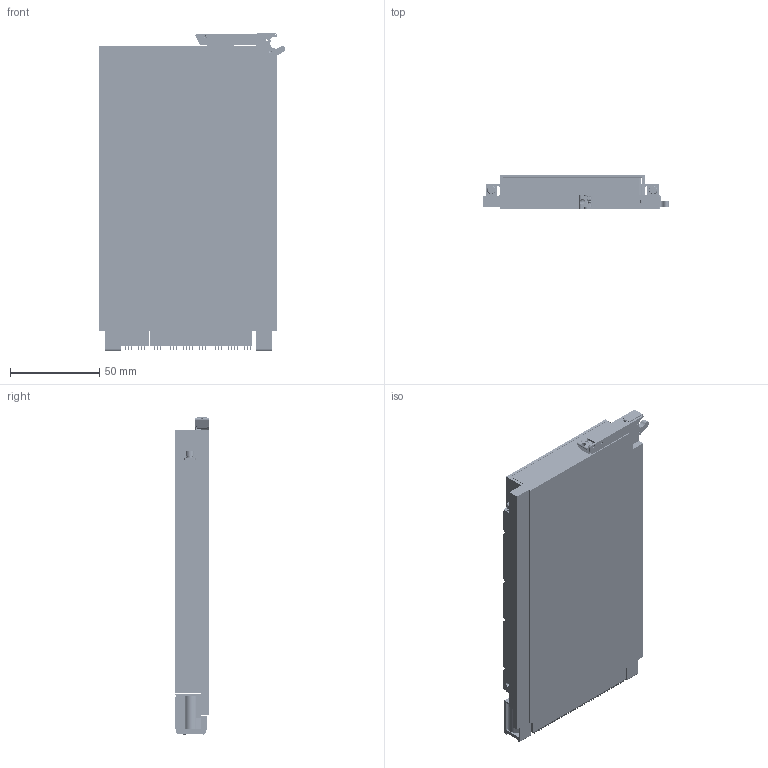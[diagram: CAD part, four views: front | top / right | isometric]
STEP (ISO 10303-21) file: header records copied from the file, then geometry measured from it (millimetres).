
FILE_DESCRIPTION (( 'STEP AP203' ), '1' );
FILE_NAME ('3U-VPX48.2-PS-260-311TC 800.step', '2018-06-15T20:50:20', ( '' ), ( '' ), 'SwSTEP 2.0', 'SolidWorks 2014', '' );
FILE_SCHEMA (( 'CONFIG_CONTROL_DESIGN' ));
Products named in the file (1): 3U-VPX48.2-PS-260-311TC 800
Bounding box: 104.37 x 19.58 x 177.74 mm (x, y, z)
Volume: 258600.3 mm3; surface area: 222826.3 mm2
Topology: 306 solids, 306 shells, 21769 faces, 61124 edges, 39626 vertices
Faces by surface type: plane 17860, cylinder 2726, bspline 1008, cone 169, torus 6
Entity records: 744964 total; most frequent: CARTESIAN_POINT 192621, ORIENTED_EDGE 118580, DIRECTION 105352, EDGE_CURVE 59290, VECTOR 51158, LINE 51158, VERTEX_POINT 39626, AXIS2_PLACEMENT_3D 27097
